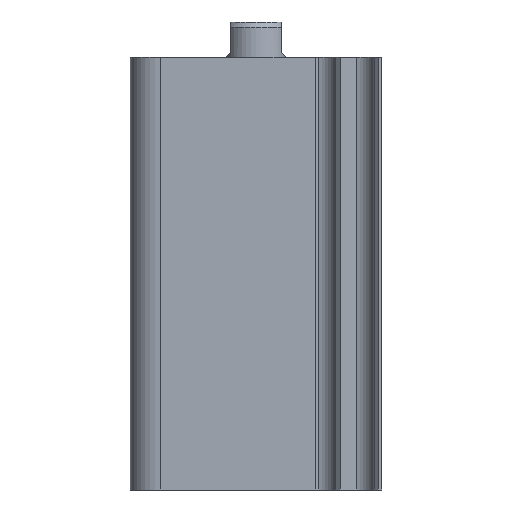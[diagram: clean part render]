
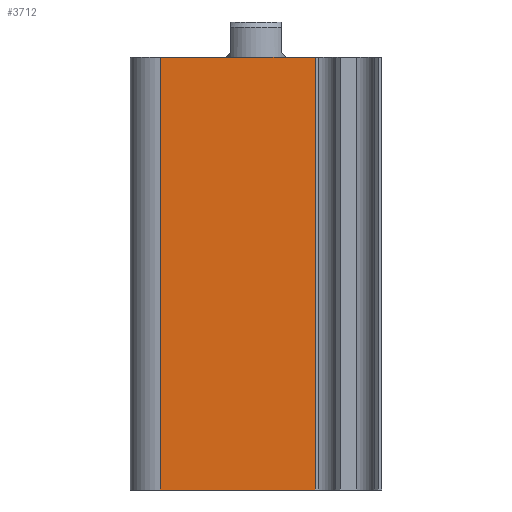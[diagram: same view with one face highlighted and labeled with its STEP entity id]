
A CAD part, front view. The second image highlights one B-rep face of the part: STEP entity #3712.
In plain terms, the highlighted planar face has unit normal (0, -1, 0).
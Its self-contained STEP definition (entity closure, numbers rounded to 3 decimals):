
#31 = VECTOR ( 'NONE', #2744, 1000. ) ;
#44 = DIRECTION ( 'NONE',  ( 0., 1., 0. ) ) ;
#69 = PLANE ( 'NONE',  #2813 ) ;
#124 = ORIENTED_EDGE ( 'NONE', *, *, #1302, .T. ) ;
#233 = LINE ( 'NONE', #1633, #706 ) ;
#386 = EDGE_CURVE ( 'NONE', #2576, #2631, #233, .T. ) ;
#629 = CARTESIAN_POINT ( 'NONE',  ( 5.885, -12.5, 56.855 ) ) ;
#706 = VECTOR ( 'NONE', #3029, 1000. ) ;
#878 = LINE ( 'NONE', #629, #1284 ) ;
#930 = DIRECTION ( 'NONE',  ( 0., 0., 1. ) ) ;
#1036 = ORIENTED_EDGE ( 'NONE', *, *, #1552, .T. ) ;
#1135 = CARTESIAN_POINT ( 'NONE',  ( -9.5, -12.5, 56.855 ) ) ;
#1219 = VERTEX_POINT ( 'NONE', #2938 ) ;
#1284 = VECTOR ( 'NONE', #930, 1000. ) ;
#1302 = EDGE_CURVE ( 'NONE', #2576, #1219, #878, .T. ) ;
#1346 = CARTESIAN_POINT ( 'NONE',  ( -9.5, -12.5, 21.5 ) ) ;
#1552 = EDGE_CURVE ( 'NONE', #3132, #2631, #1840, .T. ) ;
#1633 = CARTESIAN_POINT ( 'NONE',  ( -9.5, -12.5, -21.5 ) ) ;
#1840 = LINE ( 'NONE', #3243, #2989 ) ;
#1845 = ORIENTED_EDGE ( 'NONE', *, *, #3035, .F. ) ;
#1912 = CARTESIAN_POINT ( 'NONE',  ( -9.5, -12.5, -21.5 ) ) ;
#1934 = CARTESIAN_POINT ( 'NONE',  ( -9.5, -12.5, 21.5 ) ) ;
#2565 = EDGE_LOOP ( 'NONE', ( #2943, #124, #1845, #1036 ) ) ;
#2576 = VERTEX_POINT ( 'NONE', #4198 ) ;
#2631 = VERTEX_POINT ( 'NONE', #1912 ) ;
#2744 = DIRECTION ( 'NONE',  ( 1., 0., 0. ) ) ;
#2813 = AXIS2_PLACEMENT_3D ( 'NONE', #1135, #44, #4294 ) ;
#2938 = CARTESIAN_POINT ( 'NONE',  ( 5.885, -12.5, 21.5 ) ) ;
#2943 = ORIENTED_EDGE ( 'NONE', *, *, #386, .F. ) ;
#2989 = VECTOR ( 'NONE', #3623, 1000. ) ;
#3029 = DIRECTION ( 'NONE',  ( -1., 0., 0. ) ) ;
#3035 = EDGE_CURVE ( 'NONE', #3132, #1219, #3540, .T. ) ;
#3132 = VERTEX_POINT ( 'NONE', #1934 ) ;
#3243 = CARTESIAN_POINT ( 'NONE',  ( -9.5, -12.5, 56.855 ) ) ;
#3540 = LINE ( 'NONE', #1346, #31 ) ;
#3623 = DIRECTION ( 'NONE',  ( 0., 0., -1. ) ) ;
#3712 = ADVANCED_FACE ( 'NONE', ( #3890 ), #69, .F. ) ;
#3890 = FACE_OUTER_BOUND ( 'NONE', #2565, .T. ) ;
#4198 = CARTESIAN_POINT ( 'NONE',  ( 5.885, -12.5, -21.5 ) ) ;
#4294 = DIRECTION ( 'NONE',  ( 0., 0., 1. ) ) ;
